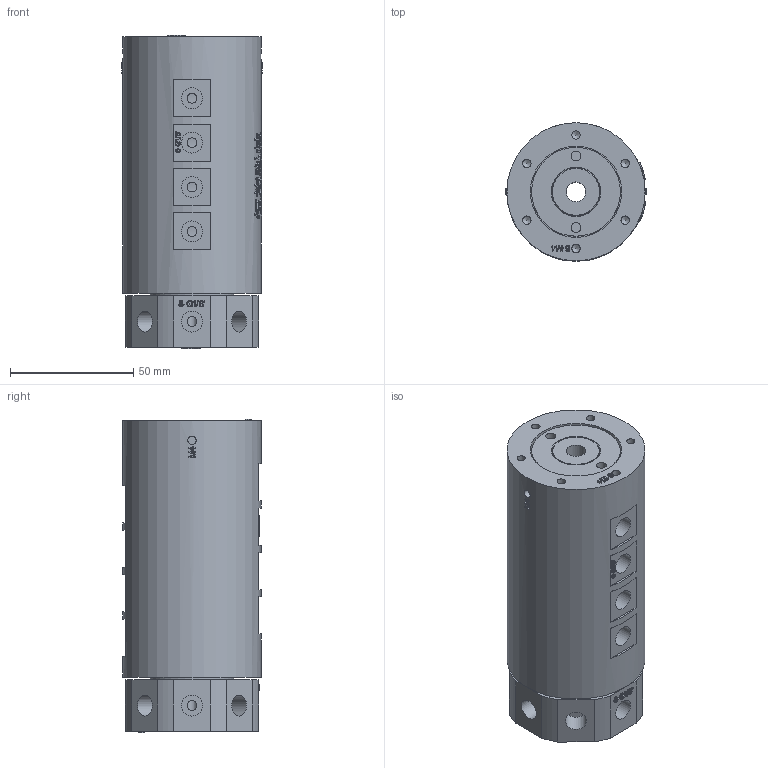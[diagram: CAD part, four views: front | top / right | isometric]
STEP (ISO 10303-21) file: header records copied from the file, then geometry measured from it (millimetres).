
FILE_DESCRIPTION(/* description */ (''),/* implementation_level */ '2;1');
FILE_NAME(/* name */ 'HQ0801.stp',/* time_stamp */ '2025-02-14T11:14:41+08:00',/* author */ (''),/* organization */ (''),/* preprocessor_version */ 'ST-DEVELOPER v16.7',/* originating_system */ 'SIEMENS PLM Software NX 12.0',/* authorisation */ '');
FILE_SCHEMA (('AUTOMOTIVE_DESIGN { 1 0 10303 214 3 1 1 1 }'));
Length unit declared in the file: millimetre
Products named in the file (1): HX0540E8A2D8nfr0
Bounding box: 57 x 56 x 127 mm (x, y, z)
Volume: 286076.5 mm3; surface area: 46606 mm2
Topology: 1 solids, 2 shells, 1175 faces, 3126 edges, 2103 vertices
Faces by surface type: extrusion 532, plane 468, cylinder 110, bspline 52, cone 13
Full cylindrical faces by diameter (mm): 3.4 x12, 4 x26, 4.1 x8, 4.2 x8, 8 x1, 8.5 x16, 18 x1, 19 x1, 29 x1, 34 x1, 36 x1, 37 x1, 56 x1
Entity records: 43733 total; most frequent: CARTESIAN_POINT 19256, ORIENTED_EDGE 5924, EDGE_CURVE 2962, DIRECTION 2878, B_SPLINE_CURVE_WITH_KNOTS 2680, VERTEX_POINT 2046, EDGE_LOOP 1418, ADVANCED_FACE 1172
